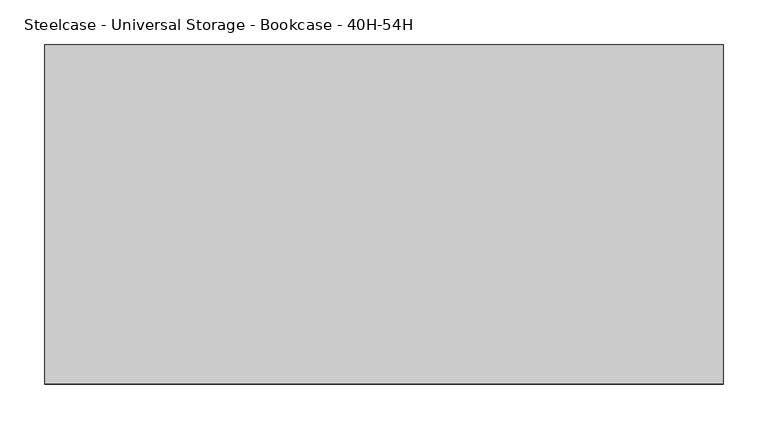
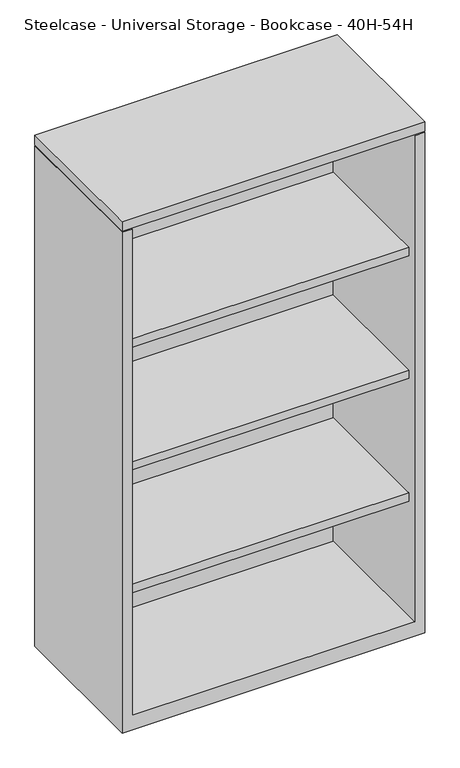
"""IFC4 building model written with IfcOpenShell, lengths in millimetres: furniture geometry, Steelcase - Universal Storage - Bookcase - 40H-54H : 53 1/2H x 30W."""

from ifc_helpers import new_model, si_unit, frame, origin, place, context, project, spatial, polyline, outline, extrude, faceted_brep, source, transform, mapped, element, save


def steelcase_universal_storage_bookcase_40h_54h_e161ff9c(model_context):
    return source(origin(), model_context, "Body", "SolidModel", [
        extrude(outline(polyline([(762.0, -98.552), (762.0, -479.552), (0.0, -479.552), (0.0, -98.552), (762.0, -98.552)])), frame((0.0, 0.0, 1336.5479031), z_axis=(0.0, 0.0, 1.0), x_axis=(1.0, 0.0, 0.0)), (0.0, 0.0, 1.0), 25.4000484),
        extrude(outline(polyline([(736.6000242, -123.9520008), (736.6000242, -454.0250121), (25.4000008, -454.0250121), (25.4000008, -123.9520008), (736.6000242, -123.9520008)])), frame((0.0, 0.0, 344.424), z_axis=(0.0, 0.0, 1.0), x_axis=(1.0, 0.0, 0.0)), (0.0, 0.0, 1.0), 22.2249516),
        extrude(outline(polyline([(736.6000242, -123.9520008), (736.6000242, -454.0250121), (25.4000008, -454.0250121), (25.4000008, -123.9520008), (736.6000242, -123.9520008)])), frame((0.0, 0.0, 671.4489516), z_axis=(0.0, 0.0, 1.0), x_axis=(1.0, 0.0, 0.0)), (0.0, 0.0, 1.0), 22.2249516),
        extrude(outline(polyline([(736.6000242, -123.9520008), (736.6000242, -454.0250121), (25.4000008, -454.0250121), (25.4000008, -123.9520008), (736.6000242, -123.9520008)])), frame((0.0, 0.0, 998.4739031), z_axis=(0.0, 0.0, 1.0), x_axis=(1.0, 0.0, 0.0)), (0.0, 0.0, 1.0), 22.2249516),
        faceted_brep([(25.4000008, -479.552, 38.1), (736.6000242, -479.552, 38.1), (736.6000242, -123.9520008, 38.1), (25.4000008, -123.9520008, 38.1), (762.0, -98.552, 0.0), (762.0, -479.552, 0.0), (0.0, -479.552, 0.0), (0.0, -98.552, 0.0), (0.0, -98.552, 1333.5), (762.0, -98.552, 1333.5), (0.0, -479.552, 1333.5), (762.0, -479.552, 1333.5), (736.6000242, -479.552, 1333.5), (25.4000008, -479.552, 1333.5), (736.6000242, -123.9520008, 1333.5), (25.4000008, -123.9520008, 1333.5)], [[[0, 1, 2, 3]], [[4, 5, 6, 7]], [[4, 7, 8, 9]], [[8, 7, 6, 10]], [[10, 6, 5, 11, 12, 1, 0, 13]], [[11, 5, 4, 9]], [[14, 12, 11, 9, 8, 10, 13, 15]], [[12, 14, 2, 1]], [[15, 13, 0, 3]], [[14, 15, 3, 2]]]),
    ])


if __name__ == "__main__":
    model = new_model("IFC4")
    model_context = context("Model", 3, world=origin())
    ifc_project = project(units=[si_unit("LENGTHUNIT", "METRE", prefix="MILLI")], contexts=[model_context])
    site = spatial("IfcSite", under=ifc_project)
    building = spatial("IfcBuilding", under=site)
    placement = place(None, origin())
    steelcase_universal_storage_bookcase_40h_54h_shape = steelcase_universal_storage_bookcase_40h_54h_e161ff9c(model_context)
    element("IfcFurniture", 1, ObjectType="Steelcase - Universal Storage - Bookcase - 40H-54H : 53 1/2H x 30W", at=placement, inside=building, context=model_context, shape_type="MappedRepresentation", body=[
        mapped(steelcase_universal_storage_bookcase_40h_54h_shape, transform((0.0, 0.0, 0.0), x_axis=(1.0, 0.0, 0.0), y_axis=(0.0, 1.0, 0.0), z_axis=(0.0, 0.0, 1.0))),
    ])
    save(model, "model.ifc")
